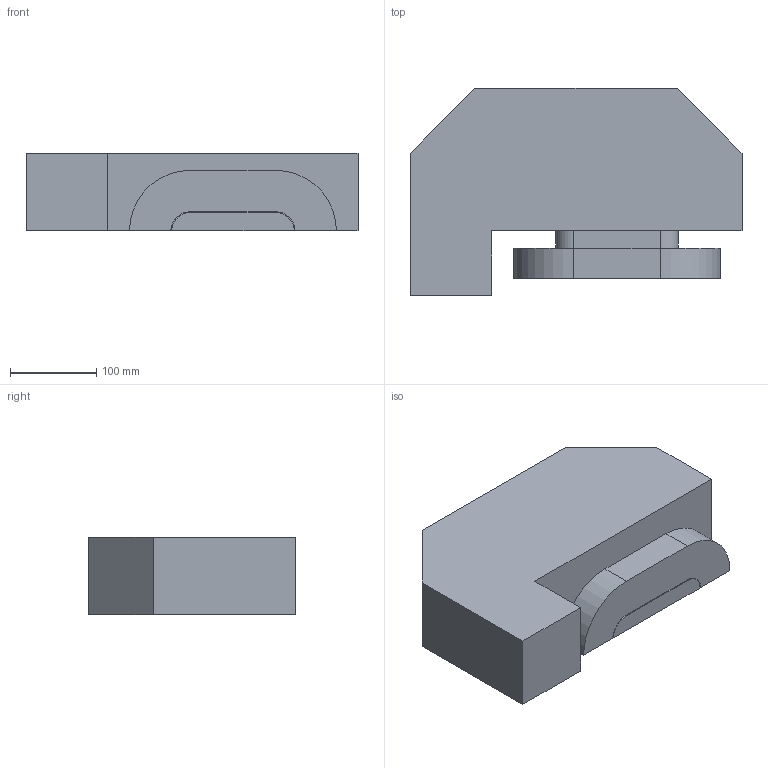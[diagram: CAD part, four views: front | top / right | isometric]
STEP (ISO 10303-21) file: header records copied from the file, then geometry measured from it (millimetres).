
FILE_DESCRIPTION(('STEP AP214'),'1');
FILE_NAME('Superbend_BC_v32.step','2021-06-11T17:59:12',(' '),(' '),'Spatial InterOp 3D',' ',' ');
FILE_SCHEMA(('AUTOMOTIVE_DESIGN { 1 0 10303 214 1 1 1 1 }'));
Length unit declared in the file: millimetre
Products named in the file (1): Pole
Bounding box: 385 x 240 x 90 mm (x, y, z)
Volume: 6416631.9 mm3; surface area: 301115.1 mm2
Topology: 3 solids, 3 shells, 26 faces, 60 edges, 40 vertices
Faces by surface type: plane 20, cylinder 6
Entity records: 759 total; most frequent: DIRECTION 130, CARTESIAN_POINT 129, ORIENTED_EDGE 120, EDGE_CURVE 60, LINE 48, VECTOR 48, AXIS2_PLACEMENT_3D 41, VERTEX_POINT 40
